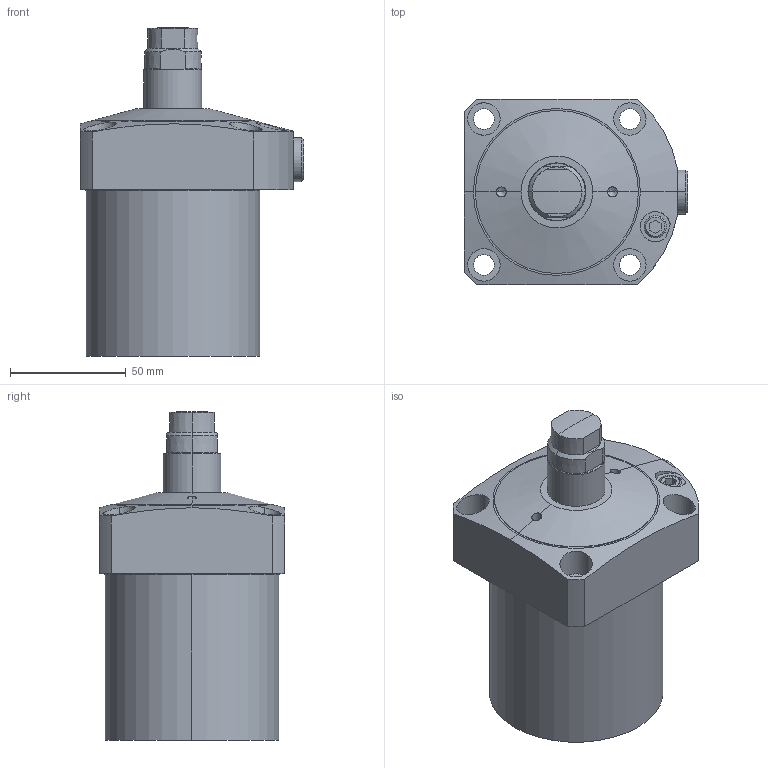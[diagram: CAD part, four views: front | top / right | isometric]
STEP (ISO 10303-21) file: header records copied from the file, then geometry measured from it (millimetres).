
FILE_DESCRIPTION(/* description */ (''),/* implementation_level */ '2;1');
FILE_NAME(/* name */ 'KFSS75.stp',/* time_stamp */ '2022-11-17T07:44:11+08:00',/* author */ (''),/* organization */ (''),/* preprocessor_version */ 'ST-DEVELOPER v16.7',/* originating_system */ 'SIEMENS PLM Software NX 12.0',/* authorisation */ '');
FILE_SCHEMA (('AP203_CONFIGURATION_CONTROLLED_3D_DESIGN_OF_MECHANICAL_PARTS_AND_ASSEMBLIES_MIM_LF { 1 0 10303 403 2 1 2}'));
Length unit declared in the file: millimetre
Products named in the file (5): KFSS75-01; KFSS75-02; KFSS75-03; KFSS75-04; LC0752-Cx-E_step
Assembly tree (4 placements, depth 2):
  LC0752-Cx-E_step
    KFSS75-04
    KFSS75-03
    KFSS75-02
    KFSS75-01
Bounding box: 96.5 x 80 x 142 mm (x, y, z)
Volume: 533031.3 mm3; surface area: 48442.4 mm2
Topology: 4 solids, 4 shells, 119 faces, 272 edges, 169 vertices
Faces by surface type: plane 45, cylinder 44, cone 26, bspline 2, torus 2
Entity records: 4145 total; most frequent: CARTESIAN_POINT 891, DIRECTION 589, ORIENTED_EDGE 532, EDGE_CURVE 266, AXIS2_PLACEMENT_3D 237, VERTEX_POINT 169, EDGE_LOOP 141, ADVANCED_FACE 119
